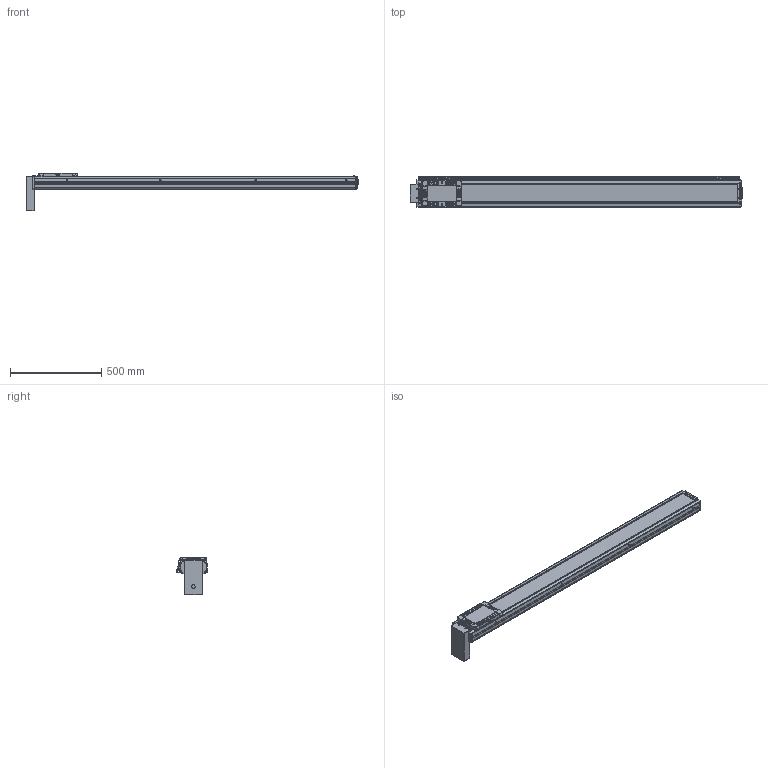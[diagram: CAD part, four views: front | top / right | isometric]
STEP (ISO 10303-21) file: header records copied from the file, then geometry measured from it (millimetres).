
FILE_DESCRIPTION(('STEP AP214'),'1');
FILE_NAME('Z:/Web/3D/SAN150/2013.04 (STP.)/SAN150ㅁㅁ-1500PB+3SL.stp','2013-05-07T08:28:09',(' '),(' '),'Spatial InterOp 3D',' ',' ');
FILE_SCHEMA(('automotive_design'));
Length unit declared in the file: millimetre
Products named in the file (62): SLBL-SAN150; SLCV-SAN150; FHCS M4.0 x 8.0; BHCS M4.0 x 10.0; SFX-SAN150; RRCV-SAN150; FRBL-SAN150; Spacer; RN15; FRCV-SAN150; Screw 20; BASE-SAN150-000L ; SUS COVER; 스크루 : Round - M5.0 x 6.0; PB; 스크루 : Round - M3.0 x 6.0; M3.0 x 6.0; SRL-16x17-360L; SGD-SAN150; EE-SX674; SBK-SX674-352
Bounding box: 1820 x 166 x 205.4 mm (x, y, z)
Volume: 10074092.4 mm3; surface area: 1943001.7 mm2
Topology: 62 solids, 62 shells, 2914 faces, 7491 edges, 4792 vertices
Faces by surface type: plane 1456, cylinder 983, cone 354, sphere 88, bspline 21, torus 12
Entity records: 115990 total; most frequent: CARTESIAN_POINT 19049, DIRECTION 15896, ORIENTED_EDGE 14686, EDGE_CURVE 7343, AXIS2_PLACEMENT_3D 5730, VERTEX_POINT 4792, LINE 4436, VECTOR 4436
